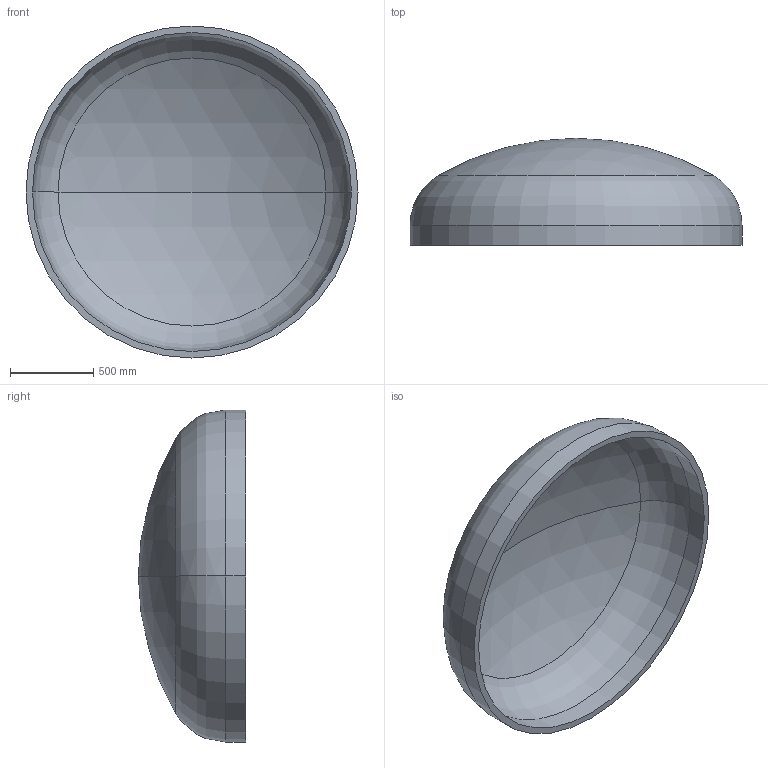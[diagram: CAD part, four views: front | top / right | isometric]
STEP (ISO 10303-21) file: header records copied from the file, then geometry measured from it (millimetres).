
FILE_DESCRIPTION (( 'STEP AP203' ), '1' );
FILE_NAME ('DIN 28013 Korbbogenform_-_Boden DIN 28013 - 2000 x 120 - I - s=39.step', '2016-07-01T13:50:54', ( '' ), ( '' ), 'SwSTEP 2.0', 'SolidWorks 2013', '' );
FILE_SCHEMA (( 'CONFIG_CONTROL_DESIGN' ));
Length unit declared in the file: millimetre
Products named in the file (1): DIN 28013 Korbbogenform_-_Boden DIN 28013 - 2000 x 120 - I - s=39
Bounding box: 2000 x 645.31 x 2000 mm (x, y, z)
Volume: 194434073.1 mm3; surface area: 10214426.4 mm2
Topology: 1 solids, 1 shells, 13 faces, 24 edges, 14 vertices
Faces by surface type: torus 4, cylinder 4, sphere 4, plane 1
Entity records: 407 total; most frequent: DIRECTION 72, CARTESIAN_POINT 52, ORIENTED_EDGE 48, AXIS2_PLACEMENT_3D 34, EDGE_CURVE 24, CIRCLE 20, EDGE_LOOP 14, VERTEX_POINT 14
